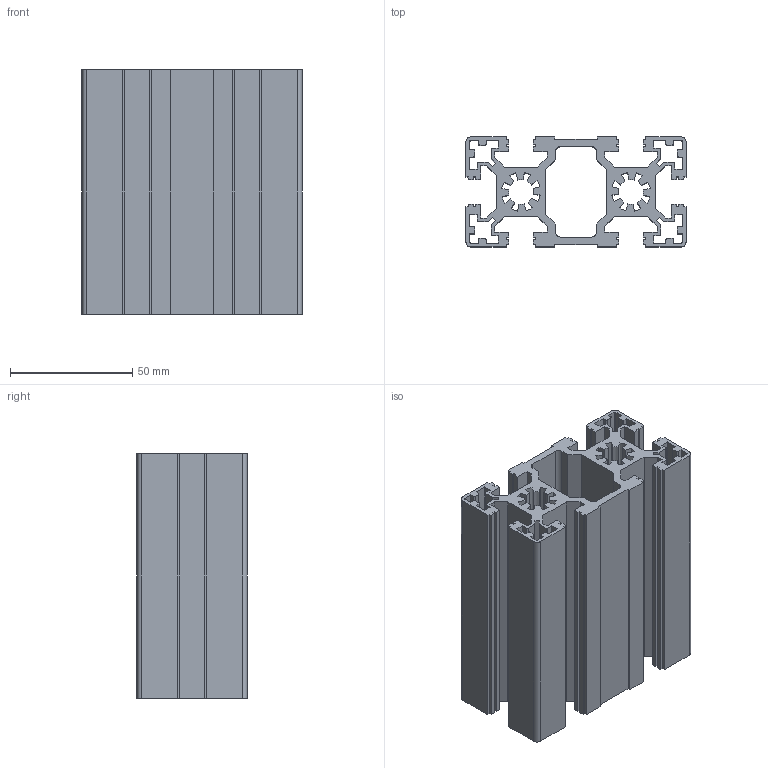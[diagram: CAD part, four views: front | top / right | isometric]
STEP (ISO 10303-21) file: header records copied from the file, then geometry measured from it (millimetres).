
FILE_DESCRIPTION (( 'STEP AP203' ), '1' );
FILE_NAME ('LIMA-4590-10.STEP', '2018-03-15T12:35:16', ( '' ), ( '' ), 'SwSTEP 2.0', 'SolidWorks 2013', '' );
FILE_SCHEMA (( 'CONFIG_CONTROL_DESIGN' ));
Length unit declared in the file: millimetre
Products named in the file (1): LIMA-4590-10
Bounding box: 90 x 45 x 100 mm (x, y, z)
Volume: 147226 mm3; surface area: 109551.9 mm2
Topology: 1 solids, 1 shells, 336 faces, 1002 edges, 668 vertices
Faces by surface type: plane 266, cylinder 70
Entity records: 11291 total; most frequent: CARTESIAN_POINT 2007, ORIENTED_EDGE 2004, DIRECTION 1816, EDGE_CURVE 1002, LINE 862, VECTOR 862, VERTEX_POINT 668, AXIS2_PLACEMENT_3D 477
